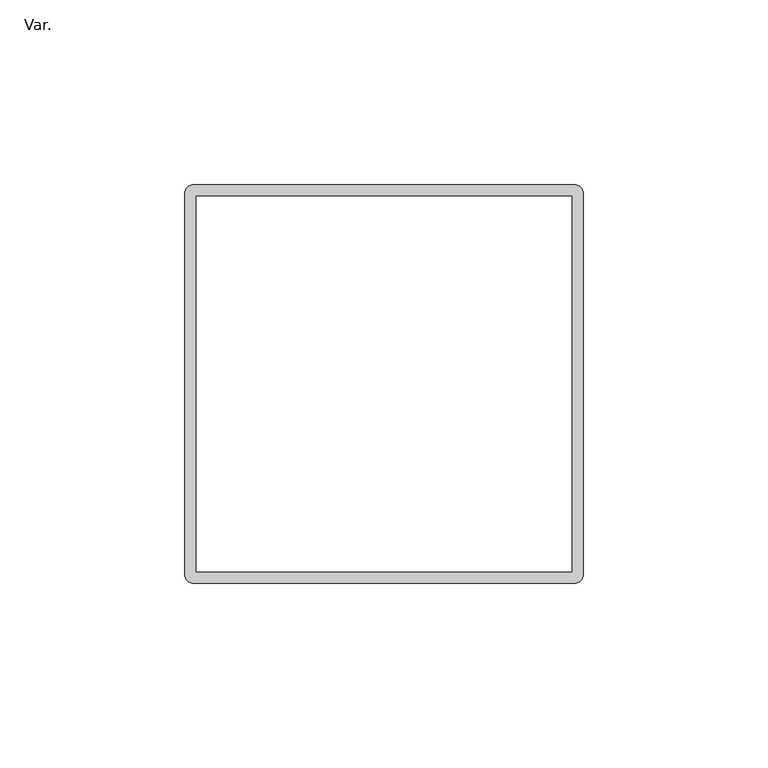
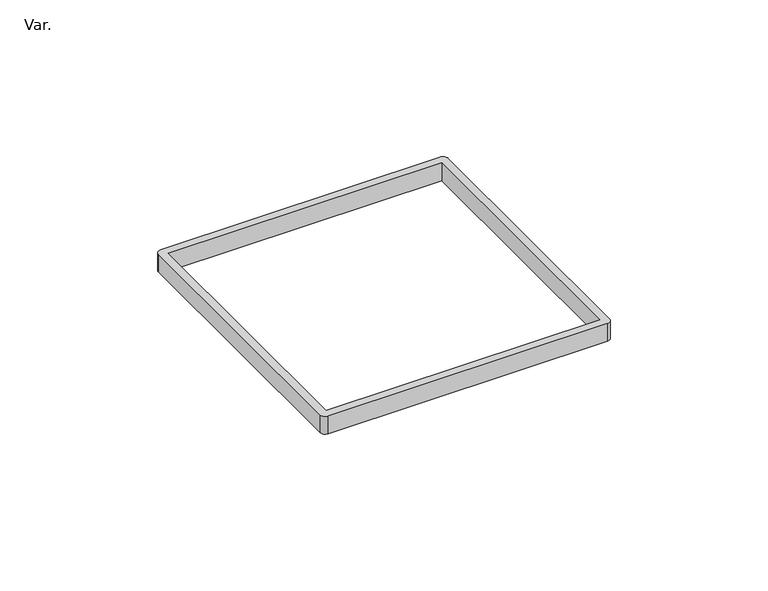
"""IFC4 building model written with IfcOpenShell, lengths in millimetres: pipe fitting geometry, Z_Amanco Esgoto Caixa Sif DN 100 Porta Grelha Quadrado (Nested) : Var.."""

from ifc_helpers import new_model, si_unit, point, frame, frame_2d, origin, place, context, project, spatial, polyline, circle_curve, trimmed, segment, composite_curve, outline, extrude, source, transform, mapped, element, save


def var_31f01aff(model_context):
    return source(origin(), model_context, "Body", "SweptSolid", [
        extrude(outline(composite_curve([segment(polyline([(-53.8, -51.8), (-53.8, 51.8)]), True, "CONTINUOUS"), segment(trimmed(circle_curve(frame_2d((-51.8, 51.8)), 2.0), [point((-53.8, 51.8))], [point((-51.8, 53.8))], False, "CARTESIAN"), True, "CONTINUOUS"), segment(polyline([(-51.8, 53.8), (51.8, 53.8)]), True, "CONTINUOUS"), segment(trimmed(circle_curve(frame_2d((51.8, 51.8)), 2.0), [point((51.8, 53.8))], [point((53.8, 51.8))], False, "CARTESIAN"), True, "CONTINUOUS"), segment(polyline([(53.8, 51.8), (53.8, -51.8)]), True, "CONTINUOUS"), segment(trimmed(circle_curve(frame_2d((51.8, -51.8)), 2.0), [point((53.8, -51.8))], [point((51.8, -53.8))], False, "CARTESIAN"), True, "CONTINUOUS"), segment(polyline([(51.8, -53.8), (-51.8, -53.8)]), True, "CONTINUOUS"), segment(trimmed(circle_curve(frame_2d((-51.8, -51.8)), 2.0), [point((-51.8, -53.8))], [point((-53.8, -51.8))], False, "CARTESIAN"), True, "CONTINUOUS")], self_intersect=False), holes=[polyline([(-50.8, 50.8), (-50.8, -50.8), (50.8, -50.8), (50.8, 50.8), (-50.8, 50.8)])]), frame((0.0, 0.0, -7.0), z_axis=(0.0, 0.0, 1.0), x_axis=(1.0, 0.0, 0.0)), (0.0, 0.0, 1.0), 7.0),
    ])


if __name__ == "__main__":
    model = new_model("IFC4")
    model_context = context("Model", 3, world=origin())
    ifc_project = project(units=[si_unit("LENGTHUNIT", "METRE", prefix="MILLI")], contexts=[model_context])
    site = spatial("IfcSite", under=ifc_project)
    building = spatial("IfcBuilding", under=site)
    placement = place(None, origin())
    var_shape = var_31f01aff(model_context)
    element("IfcPipeFitting", 1, ObjectType="Z_Amanco Esgoto Caixa Sif DN 100 Porta Grelha Quadrado (Nested) : Var.", at=placement, inside=building, context=model_context, shape_type="MappedRepresentation", body=[
        mapped(var_shape, transform((0.0, 0.0, 0.0), x_axis=(1.0, 0.0, 0.0), y_axis=(0.0, 1.0, 0.0), z_axis=(0.0, 0.0, 1.0))),
    ])
    save(model, "model.ifc")
